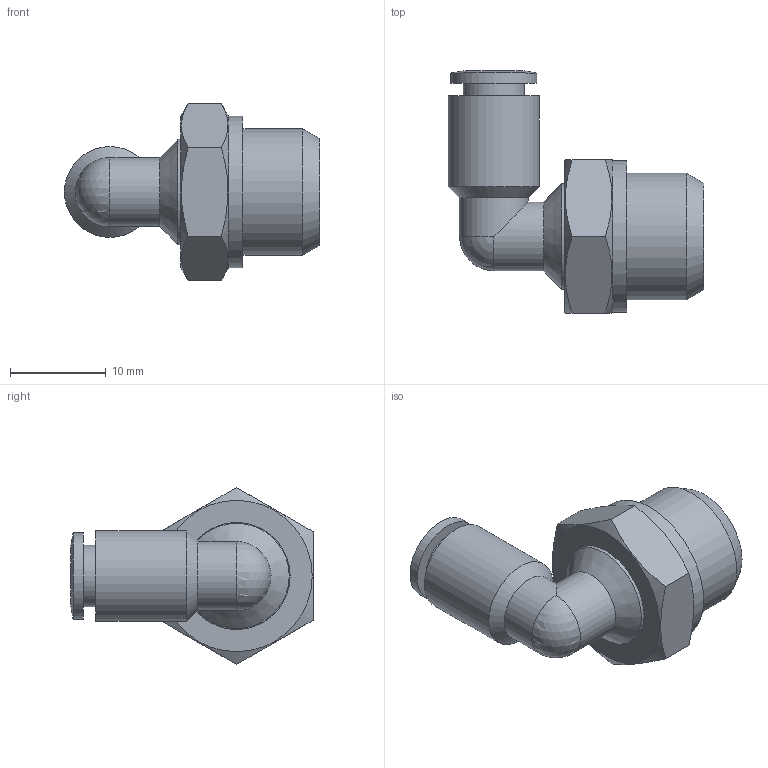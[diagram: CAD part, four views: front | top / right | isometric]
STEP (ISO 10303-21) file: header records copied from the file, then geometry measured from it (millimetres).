
FILE_DESCRIPTION((''),'2;1');
FILE_NAME('C:\Documents and Settings\rivolro1\Documenti\copia di Raccordi\PLASTICA\T22XXXX\T220414.stp','2007-11-02T14:26:53',('Rivolro1'),(''),'Autodesk Inventor 2008','Autodesk Inventor 2008','');
FILE_SCHEMA(('AUTOMOTIVE_DESIGN { 1 0 10303 214 1 1 1 1 }'));
Length unit declared in the file: millimetre
Products named in the file (1): T220414
Bounding box: 26.65 x 25.3 x 18.48 mm (x, y, z)
Volume: 3457.5 mm3; surface area: 2320.2 mm2
Topology: 1 solids, 1 shells, 36 faces, 79 edges, 47 vertices
Faces by surface type: plane 15, cylinder 10, cone 6, bspline 4, sphere 1
Full cylindrical faces by diameter (mm): 3 x1, 6.4 x1, 7.2 x2, 9 x1, 9.5 x1, 11 x1, 11.2 x1, 13.2 x1, 15.8 x1
Entity records: 954 total; most frequent: CARTESIAN_POINT 234, DIRECTION 136, ORIENTED_EDGE 102, AXIS2_PLACEMENT_3D 64, EDGE_LOOP 62, EDGE_CURVE 51, VERTEX_POINT 41, FACE_OUTER_BOUND 36
